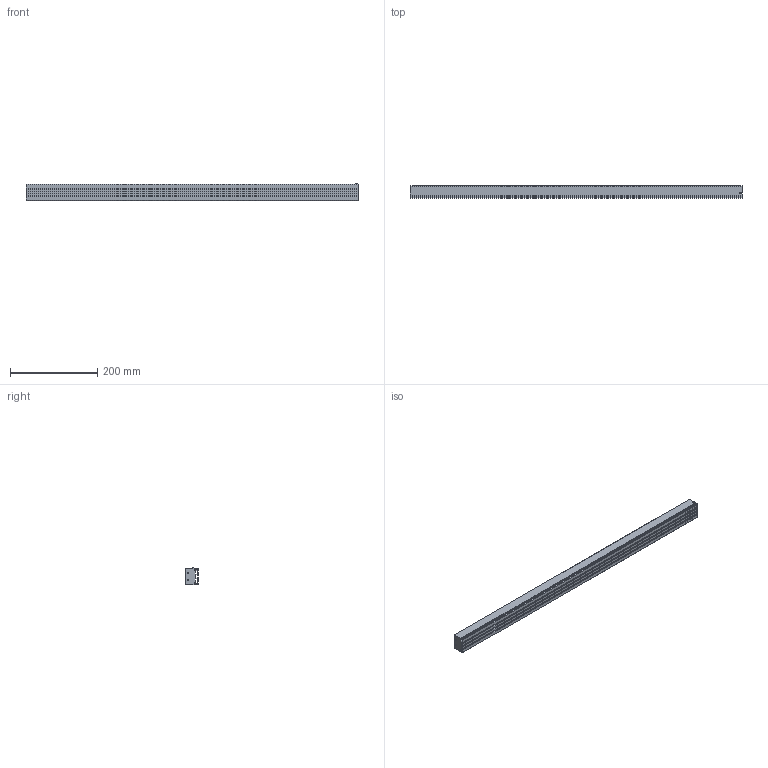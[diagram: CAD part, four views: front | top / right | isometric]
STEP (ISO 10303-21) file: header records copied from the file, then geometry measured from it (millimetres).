
FILE_DESCRIPTION (( 'STEP AP203' ), '1' );
FILE_NAME ('LRD-B6-760.STEP', '2022-08-25T06:07:43', ( 'TNT' ), ( '' ), 'SwSTEP 2.0', 'SolidWorks 2018', '' );
FILE_SCHEMA (( 'CONFIG_CONTROL_DESIGN' ));
Length unit declared in the file: millimetre
Products named in the file (1): LRD-B6-760
Bounding box: 760 x 27.7 x 39.1 mm (x, y, z)
Volume: 645679 mm3; surface area: 165246.3 mm2
Topology: 1 solids, 1 shells, 74 faces, 202 edges, 128 vertices
Faces by surface type: plane 56, cylinder 10, cone 8
Entity records: 2323 total; most frequent: CARTESIAN_POINT 397, ORIENTED_EDGE 388, DIRECTION 364, EDGE_CURVE 194, VECTOR 174, LINE 174, VERTEX_POINT 128, AXIS2_PLACEMENT_3D 95
